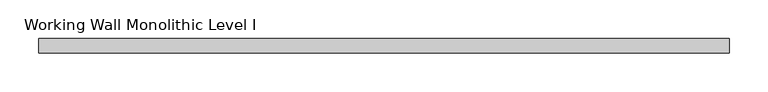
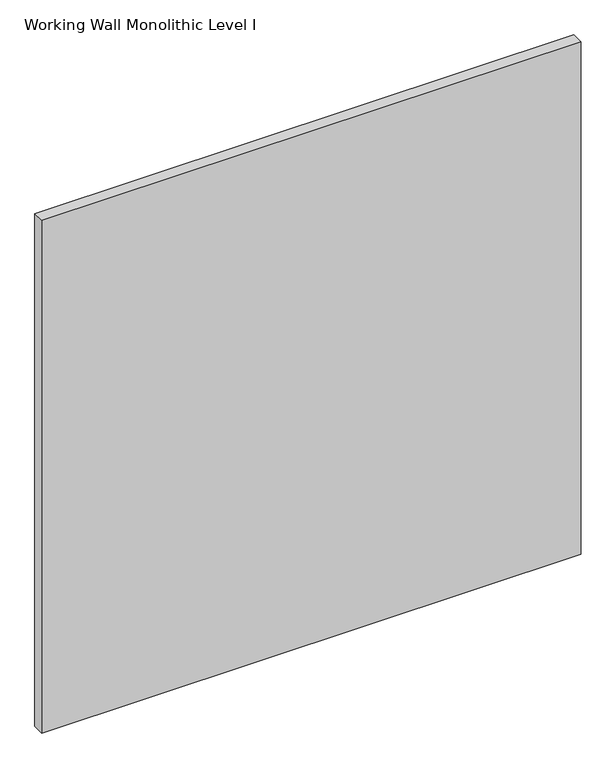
"""IFC4 building model written with IfcOpenShell, lengths in millimetres: proxy geometry, Panel-Fascia-Teknion-Altos-Standard : Working Wall Monolithic Level I."""

from ifc_helpers import new_model, si_unit, frame, origin, place, context, project, spatial, polyline, outline, extrude, source, transform, mapped, element, save


def working_wall_monolithic_level_i_ddf61f7f(model_context):
    return source(origin(), model_context, "Body", "SweptSolid", [
        extrude(outline(polyline([(447.0356344, 9.525), (447.0356344, -9.525), (-447.0356344, -9.525), (-447.0356344, 9.525), (447.0356344, 9.525)])), frame((0.0, 0.0, 3.175), z_axis=(0.0, 0.0, 1.0), x_axis=(1.0, 0.0, 0.0)), (0.0, 0.0, 1.0), 898.525),
    ])


if __name__ == "__main__":
    model = new_model("IFC4")
    model_context = context("Model", 3, world=origin())
    ifc_project = project(units=[si_unit("LENGTHUNIT", "METRE", prefix="MILLI")], contexts=[model_context])
    site = spatial("IfcSite", under=ifc_project)
    building = spatial("IfcBuilding", under=site)
    placement = place(None, origin())
    working_wall_monolithic_level_i_shape = working_wall_monolithic_level_i_ddf61f7f(model_context)
    element("IfcBuildingElementProxy", 1, Name="Panel-Fascia-Teknion-Altos-Standard : Working Wall Monolithic Level I", ObjectType="Panel-Fascia-Teknion-Altos-Standard : Working Wall Monolithic Level I", at=placement, inside=building, context=model_context, shape_type="MappedRepresentation", body=[
        mapped(working_wall_monolithic_level_i_shape, transform((0.0, 0.0, 0.0), x_axis=(1.0, 0.0, 0.0), y_axis=(0.0, 1.0, 0.0), z_axis=(0.0, 0.0, 1.0))),
    ])
    save(model, "model.ifc")
